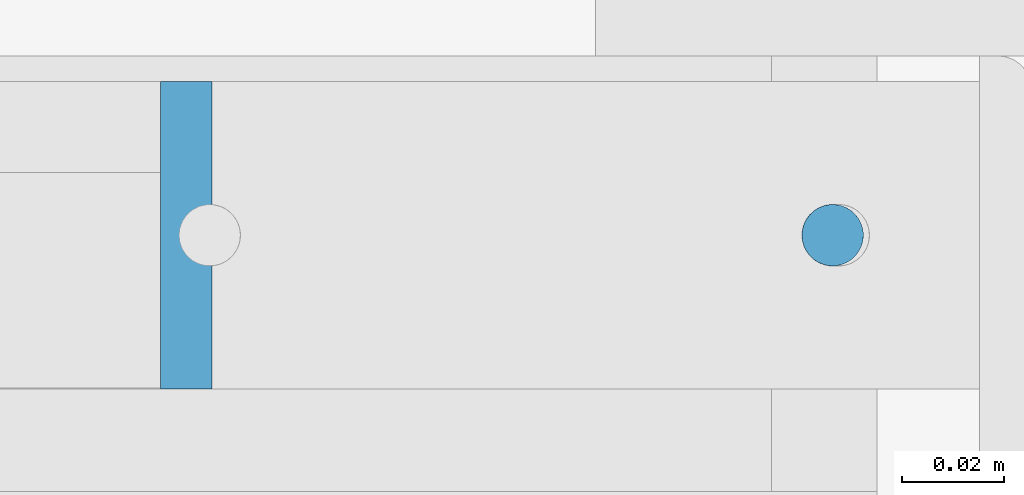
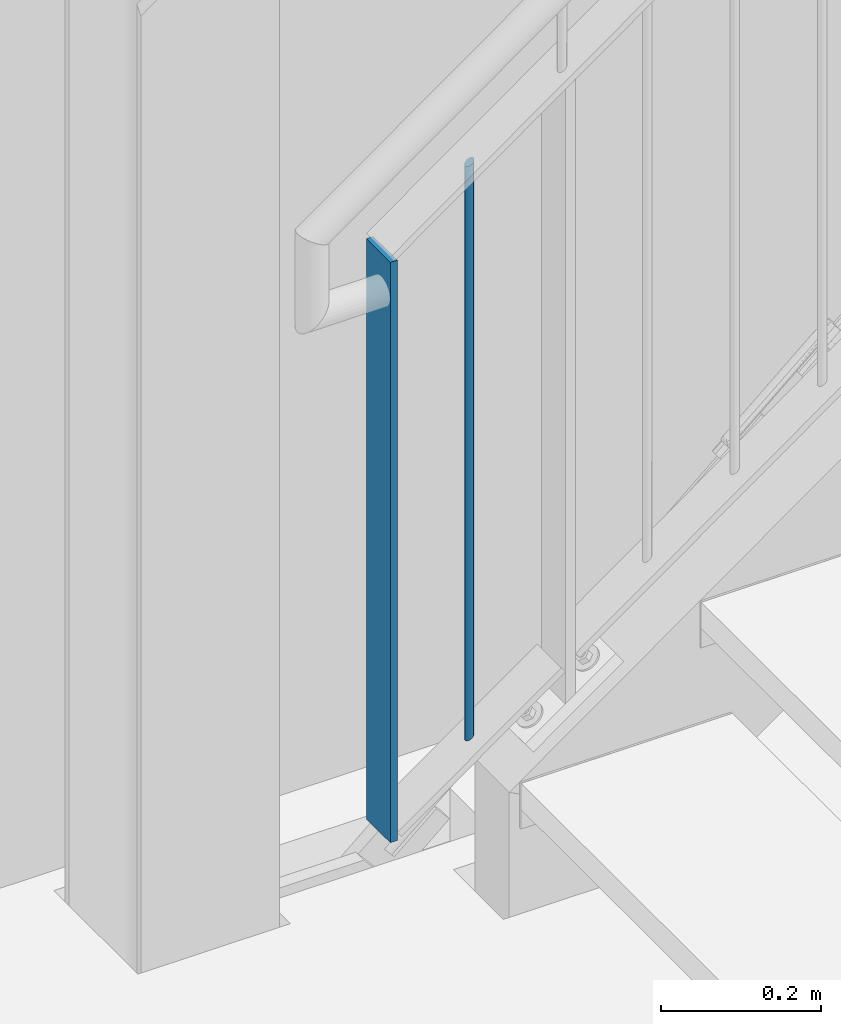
# One storey, part 67 of 831: 2 columns.
"""IFC2X3 building model written with IfcOpenShell, lengths in millimetres."""

from ifc_helpers import new_model, entity, si_unit, converted_unit, frame, origin, origin_with_axes, origin_2d, place, context, project, spatial, rectangle, circle, extrude, clip, halfspace, material, element, save


model = new_model("IFC2X3")

# Units and contexts
model_context = context("Model", 3, precision=1e-09, world=origin_with_axes())
ifc_project = project(units=[si_unit("LENGTHUNIT", "METRE", prefix="MILLI"), si_unit("AREAUNIT", "SQUARE_METRE"), si_unit("VOLUMEUNIT", "CUBIC_METRE"), converted_unit("PLANEANGLEUNIT", "DEGREE", entity("IfcPlaneAngleMeasure", 0.01745329), si_unit("PLANEANGLEUNIT", "RADIAN"), dimensions=[0, 0, 0, 0, 0, 0, 0])], contexts=[model_context])

# Site, building, storey
site_placement = place(None, origin_with_axes())
site = spatial("IfcSite", under=ifc_project, at=site_placement, Name="Site", CompositionType="ELEMENT")
building_placement = place(site_placement, origin_with_axes())
building = spatial("IfcBuilding", under=site, at=building_placement, Name="Struktur 1", CompositionType="ELEMENT")
storey_placement = place(building_placement, origin_with_axes())
storey = spatial("IfcBuildingStorey", under=building, at=storey_placement, Name="Default Storey", CompositionType="ELEMENT", Elevation=0.0)

# Columns
ifc_material = material(Name="S235JR")
column_1_placement = place(None, frame((5193.044323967, 7356.736971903, 1496.132045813), z_axis=(0.0, 0.0, 1.0), x_axis=(1.0, 0.0, 0.0)))
element("IfcColumn", 1, at=column_1_placement, inside=storey, material=ifc_material, Name="Railing_Picket_Stair#7", ObjectType="Railing_Picket_Stair#7", context=model_context, shape_type="Clipping", body=[
    clip(clip(extrude(circle(Radius=6.0, at=origin_2d()), origin(), (0.0, 0.0, -1.0), 896.604693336), halfspace(frame((-4148.212425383, -7356.736971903, -2963.709406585), z_axis=(0.579973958, 0.0, -0.814635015), x_axis=(0.0, 1.0, 0.0)), True)), halfspace(frame((-3734.439855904, -7356.736971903, -3544.896922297), z_axis=(-0.579973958, 0.0, 0.814635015), x_axis=(0.0, -1.0, 0.0)), True)),
])
column_2_placement = place(None, frame((5066.878639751, 7356.736971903, 1396.462546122), z_axis=(0.0, 0.0, 1.0), x_axis=(1.0, 0.0, 0.0)))
element("IfcColumn", 2, at=column_2_placement, inside=storey, material=ifc_material, Name="Railing_Post_Stair#0", ObjectType="Railing_Post_Stair#0", context=model_context, shape_type="SweptSolid", body=[
    extrude(rectangle(XDim=10.0, YDim=60.0, at=origin_2d()), origin(), (0.0, 0.0, -1.0), 885.057676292),
])

save(model, "model.ifc")
